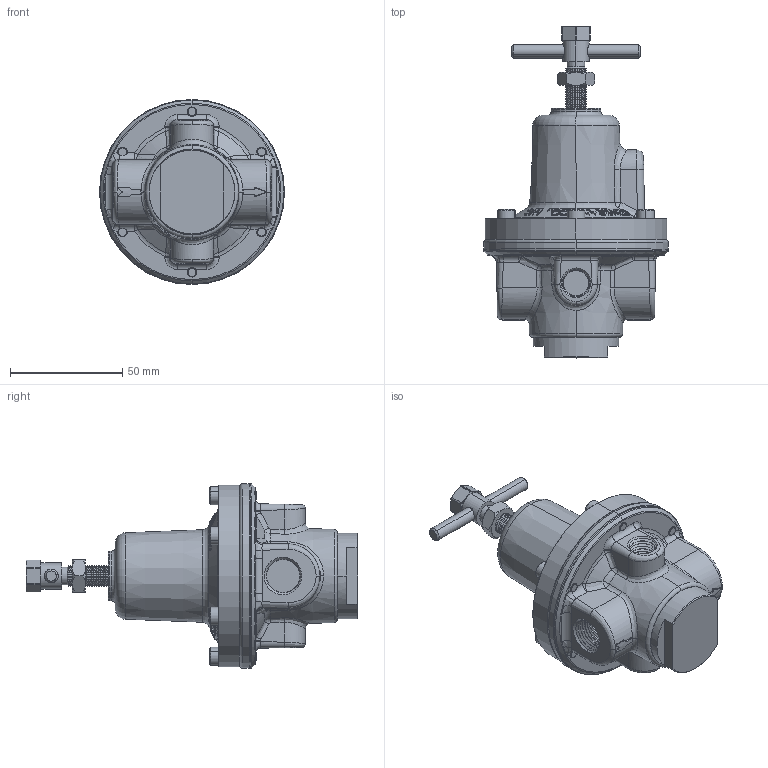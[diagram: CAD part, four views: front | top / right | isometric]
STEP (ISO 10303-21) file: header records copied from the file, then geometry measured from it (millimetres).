
FILE_DESCRIPTION (( 'STEP AP203' ), '1' );
FILE_NAME ('4GDR-375B.STEP', '2013-03-13T19:40:01', ( '' ), ( '' ), 'SwSTEP 2.0', 'SolidWorks 2011', '' );
FILE_SCHEMA (( 'CONFIG_CONTROL_DESIGN' ));
Products named in the file (2): 4GDR-375B; Part4^4GDR-375B_CM
Assembly tree (1 placements, depth 2):
  4GDR-375B
    Part4^4GDR-375B_CM
Bounding box: 82.3 x 147.64 x 82.3 mm (x, y, z)
Volume: 242103.8 mm3; surface area: 35533.5 mm2
Topology: 1 solids, 6 shells, 1161 faces, 2676 edges, 1559 vertices
Faces by surface type: cone 401, plane 313, bspline 222, cylinder 179, torus 33, sphere 13
Entity records: 42149 total; most frequent: CARTESIAN_POINT 17984, ORIENTED_EDGE 5318, DIRECTION 4457, EDGE_CURVE 2659, AXIS2_PLACEMENT_3D 1746, VERTEX_POINT 1559, EDGE_LOOP 1220, ADVANCED_FACE 1161
